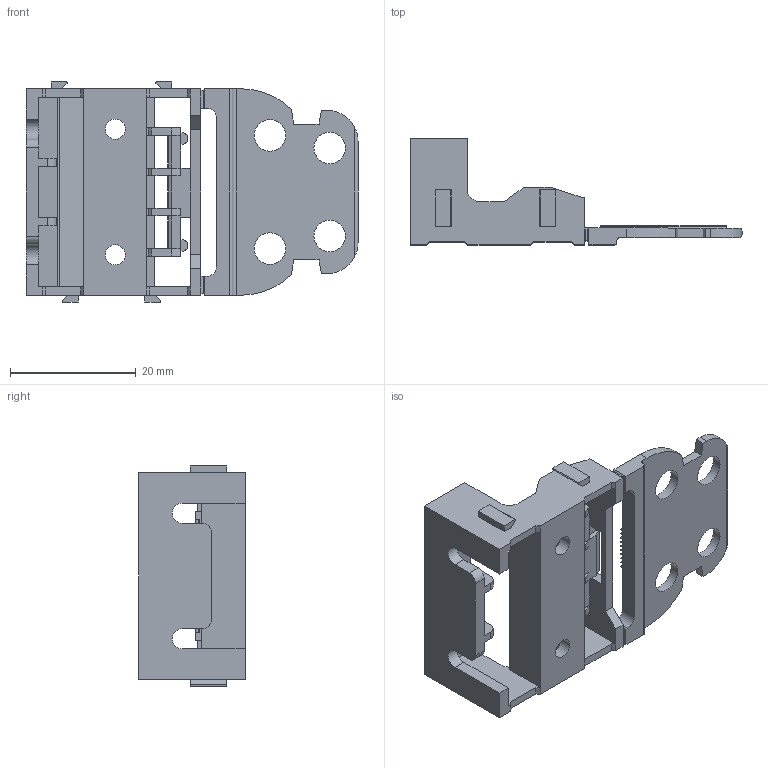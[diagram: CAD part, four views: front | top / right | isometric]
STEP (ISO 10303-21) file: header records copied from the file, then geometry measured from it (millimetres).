
FILE_DESCRIPTION(/* description */ ('STEP AP214'),/* implementation_level */ '2;1');
FILE_NAME(/* name */ '221-505_000-004',/* time_stamp */ '2023-07-21T14:46:25+02:00',/* author */ ('License CC BY-ND 4.0'),/* organization */ ('CADENAS'),/* preprocessor_version */ 'ST-DEVELOPER v19.3',/* originating_system */ 'PARTsolutions',/* authorisation */ ' ');
FILE_SCHEMA (('AUTOMOTIVE_DESIGN {1 0 10303 214 3 1 1}'));
Length unit declared in the file: millimetre
Products named in the file (1): 221-505/000-004
Bounding box: 52.8 x 16.9 x 35 mm (x, y, z)
Volume: 4314.6 mm3; surface area: 6436.1 mm2
Topology: 1 solids, 1 shells, 299 faces, 879 edges, 574 vertices
Faces by surface type: plane 214, cylinder 82, torus 3
Full cylindrical faces by diameter (mm): 3.2 x2, 5 x4
Entity records: 9874 total; most frequent: CARTESIAN_POINT 1775, ORIENTED_EDGE 1738, DIRECTION 1618, EDGE_CURVE 869, LINE 696, VECTOR 696, VERTEX_POINT 570, AXIS2_PLACEMENT_3D 461
